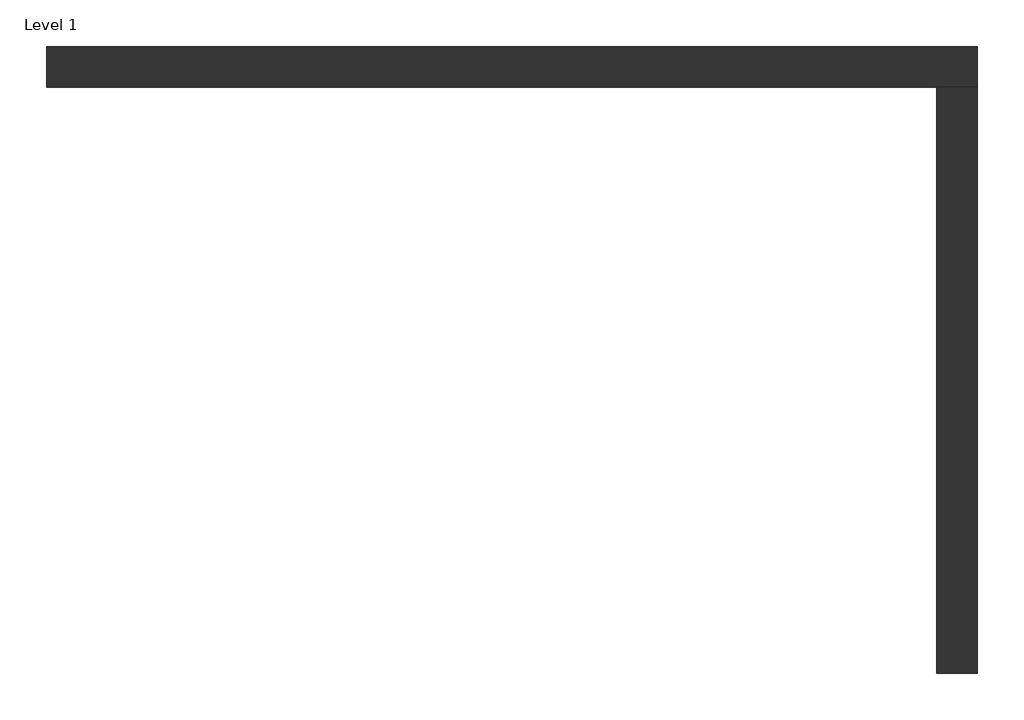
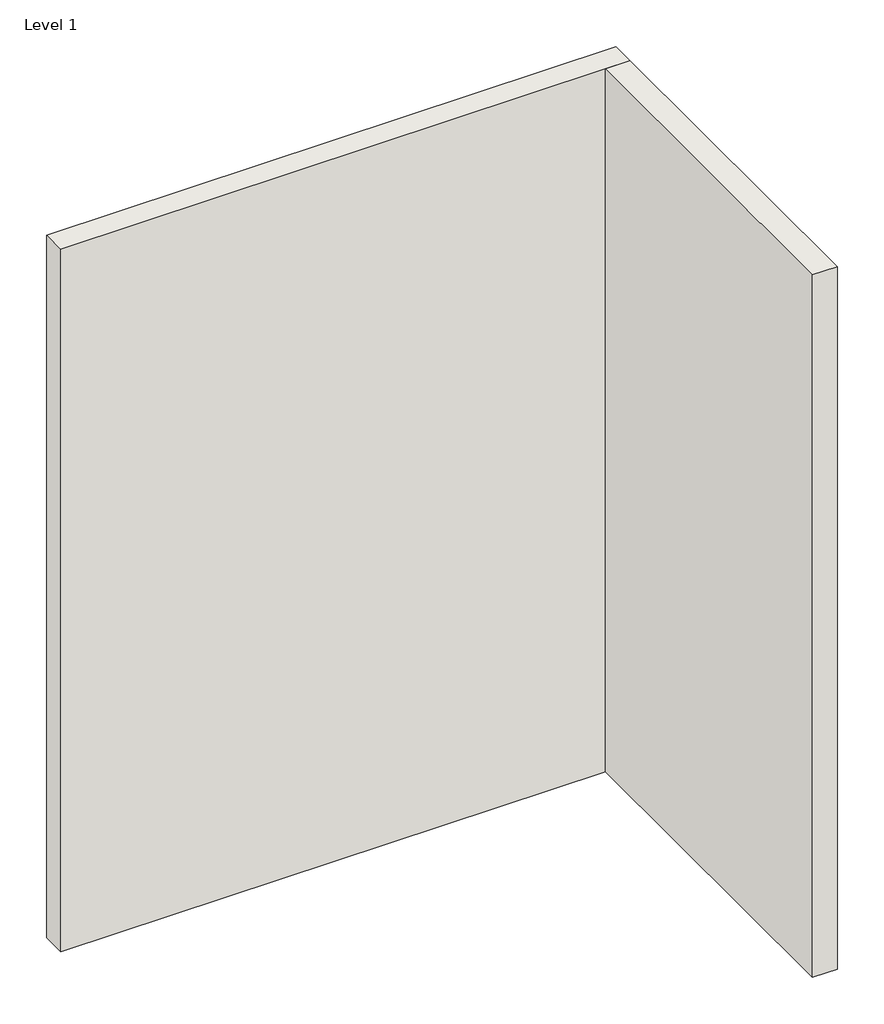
# One storey: 2 walls.
"""IFC4 building model written with IfcOpenShell, lengths in millimetres."""

from ifc_helpers import new_model, si_unit, origin, origin_with_axes, place, context, project, spatial, polyline, outline, extrude, faceted_brep, element, save

model = new_model("IFC4")

# Units and contexts
model_context = context("Model", 3, world=origin())
ifc_project = project(units=[si_unit("LENGTHUNIT", "METRE", prefix="MILLI")], contexts=[model_context])

# Site, building, storey
site = spatial("IfcSite", under=ifc_project)
building = spatial("IfcBuilding", under=site)
storey = spatial("IfcBuildingStorey", under=building, Name="Level 1", Elevation=0.0)

# Walls
placement = place(None, origin())
element("IfcWall", 1, ObjectType="Generic - 8\"", at=placement, inside=storey, context=model_context, shape_type="Brep", body=[
    faceted_brep([(-889.2602902, -741.8838621, 0.0), (3581.1397098, -741.8838621, 0.0), (3784.3397098, -741.8838621, 0.0), (3784.3397098, -741.8838621, 6096.0), (3581.1397098, -741.8838621, 6096.0), (-889.2602902, -741.8838621, 6096.0), (-889.2602902, -538.6838621, 0.0), (-889.2602902, -538.6838621, 6096.0), (3784.3397098, -538.6838621, 6096.0), (3784.3397098, -538.6838621, 0.0)], [[[0, 1, 2, 3, 4, 5]], [[6, 7, 8, 9]], [[2, 1, 0, 6, 9]], [[5, 4, 3, 8, 7]], [[0, 5, 7, 6]], [[3, 2, 9, 8]]]),
])
element("IfcWall", 2, ObjectType="Generic - 8\"", at=placement, inside=storey, context=model_context, shape_type="SweptSolid", body=[
    extrude(outline(polyline([(3581.1397098, -3688.2838621), (3581.1397098, -741.8838621), (3784.3397098, -741.8838621), (3784.3397098, -3688.2838621), (3581.1397098, -3688.2838621)])), origin_with_axes(), (0.0, 0.0, 1.0), 6096.0),
])

save(model, "model.ifc")
